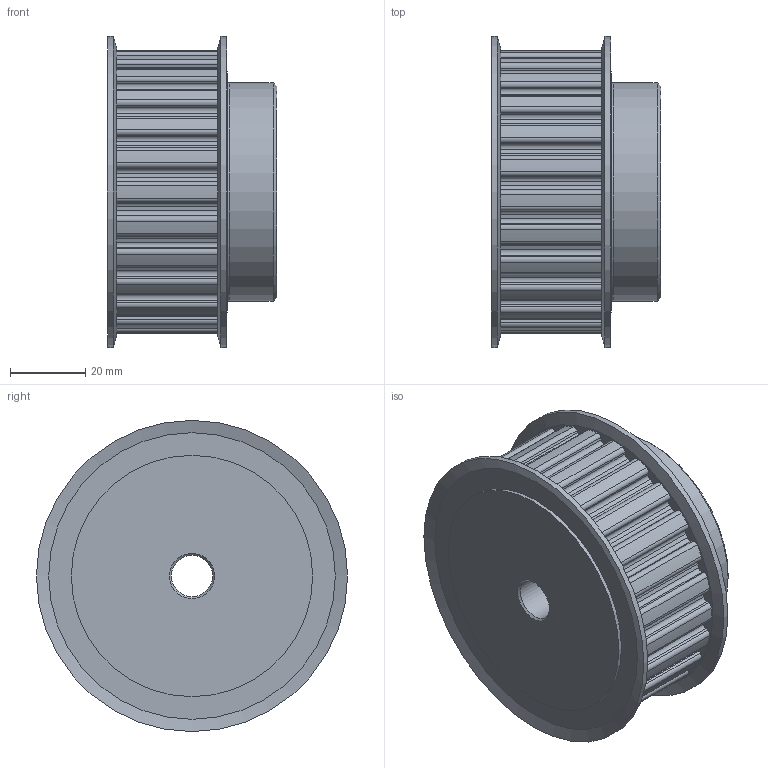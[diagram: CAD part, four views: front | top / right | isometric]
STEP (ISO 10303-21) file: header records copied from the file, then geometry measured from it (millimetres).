
FILE_DESCRIPTION(/* description */ ('PULEGGE 25 L 100 F'),/* implementation_level */ '2;1');
FILE_NAME(/* name */ 'w:\documenti\Disegni dwg\Catalogo\Pulegge\L\100\stp\42100025.stp',/* time_stamp */ '2023-05-22T08:46:59+02:00',/* author */ ('carlo.bersi'),/* organization */ (''),/* preprocessor_version */ 'ST-DEVELOPER v19',/* originating_system */ 'Autodesk Inventor 2023',/* authorisation */ '');
FILE_SCHEMA (('CONFIG_CONTROL_DESIGN'));
Length unit declared in the file: millimetre
Products named in the file (3): 42100025; 42100025_1; 49200064
Assembly tree (3 placements, depth 2):
  42100025
    42100025_1
    49200064  x2
Bounding box: 45 x 82.5 x 82.5 mm (x, y, z)
Volume: 165217.7 mm3; surface area: 31274.9 mm2
Topology: 3 solids, 3 shells, 225 faces, 641 edges, 425 vertices
Faces by surface type: cylinder 133, plane 84, cone 7, torus 1
Full cylindrical faces by diameter (mm): 11 x1, 58 x1, 64 x4, 82.5 x2
Entity records: 7427 total; most frequent: DIRECTION 1351, CARTESIAN_POINT 1275, ORIENTED_EDGE 1262, EDGE_CURVE 631, AXIS2_PLACEMENT_3D 495, VERTEX_POINT 419, LINE 361, VECTOR 361
